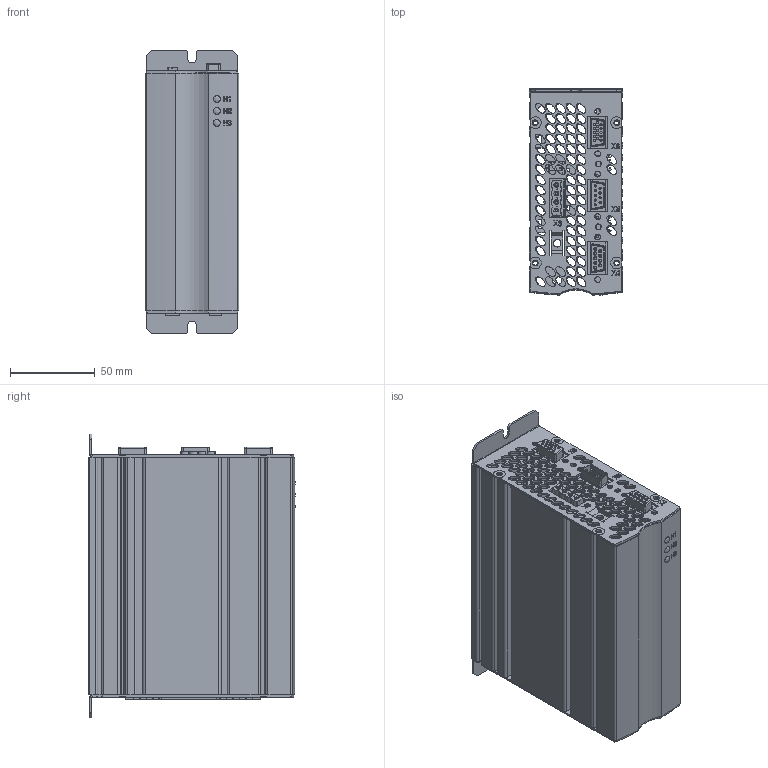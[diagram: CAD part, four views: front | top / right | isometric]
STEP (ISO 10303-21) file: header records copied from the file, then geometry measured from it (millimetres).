
FILE_DESCRIPTION (( 'STEP AP214' ), '1' );
FILE_NAME ('Zusammenbau-CDF.STEP', '2010-09-20T07:01:38', ( 'Bereich' ), ( 'LTi DRiVES GmbH' ), 'SwSTEP 2.0', 'SolidWorks 2008', '' );
FILE_SCHEMA (( 'AUTOMOTIVE_DESIGN' ));
Length unit declared in the file: millimetre
Products named in the file (22): TEST_Standard; IC_2.5_HC-4-G-5.08(1); D_SUB_9POLIG_108581; D-Sub_9polig-Stift_Standard; MC_1.5-10-G-3.81_Standard; CODIERSCHALTER1_Standard; Steuerprint-MR; MSTBA_2.5-HC-6-G-5.9_Standard; MSTBA_2.5-HC-6-G-5.08(1); CODIERSCHALTER-109127; DRUCKTASTER-105902_Standard; DRUCKTASTER-105902A; IC_2.5_HC-4-G-5.08_Standard; D_SUB_15POLIG_Standard; 1040.507.1_Standard; Zusammenbau-CDF; TEIL2_Standard; 0930.504.0_Standard; Gehäuse_Standard; LEISTUNGSPRINT; 1040.512.0_Standard; 1040.513.0_Standard
Assembly tree (25 placements, depth 4):
  Zusammenbau-CDF
    1040.512.0_Standard
    Steuerprint-MR
      DRUCKTASTER-105902A
        DRUCKTASTER-105902_Standard
      CODIERSCHALTER-109127
        CODIERSCHALTER1_Standard
      D_SUB_15POLIG_Standard
      DRUCKTASTER-105902_Standard
      MC_1.5-10-G-3.81_Standard  x2
      D-Sub_9polig-Stift_Standard
      D_SUB_9POLIG_108581
        TEST_Standard
    1040.507.1_Standard
      Gehäuse_Standard
      0930.504.0_Standard  x3
        TEIL2_Standard
    LEISTUNGSPRINT
      MSTBA_2.5-HC-6-G-5.08(1)
        MSTBA_2.5-HC-6-G-5.9_Standard
      IC_2.5_HC-4-G-5.08(1)
        IC_2.5_HC-4-G-5.08_Standard
    1040.513.0_Standard
Bounding box: 55 x 121.38 x 167 mm (x, y, z)
Volume: 160103.8 mm3; surface area: 159306.1 mm2
Topology: 16 solids, 16 shells, 3919 faces, 10096 edges, 6489 vertices
Faces by surface type: plane 2450, cylinder 838, bspline 486, cone 101, torus 26, sphere 18
Entity records: 106251 total; most frequent: CARTESIAN_POINT 26808, ORIENTED_EDGE 16266, DIRECTION 14364, EDGE_CURVE 8133, VECTOR 5446, LINE 5446, VERTEX_POINT 5273, AXIS2_PLACEMENT_3D 4459
